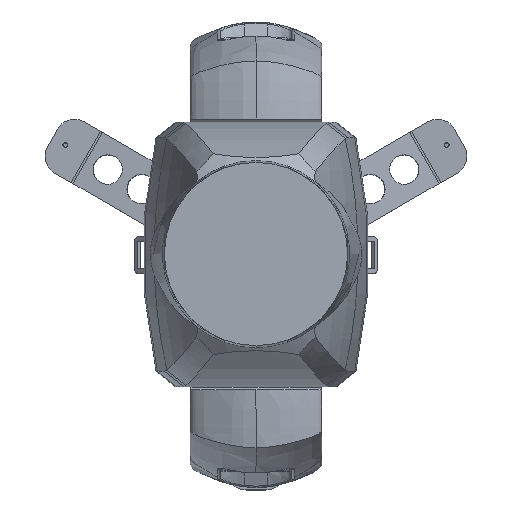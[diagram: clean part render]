
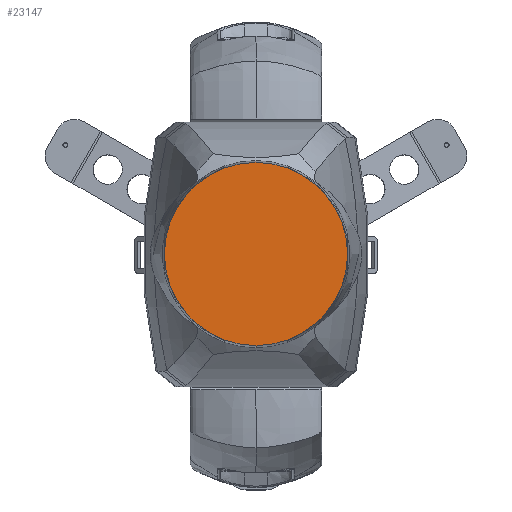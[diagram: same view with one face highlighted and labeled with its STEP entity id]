
A CAD part, top view. The second image highlights one B-rep face of the part: STEP entity #23147.
In plain terms, the highlighted planar face has unit normal (0, 0, 1) as drawn and (0, 0, -1) by its records, which use the part's own axes.
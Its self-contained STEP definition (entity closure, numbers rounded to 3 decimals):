
#21160=CARTESIAN_POINT('',(0.,0.,-871.984));
#21161=DIRECTION('',(0.,0.,1.));
#21162=DIRECTION('',(0.,-1.,0.));
#21163=AXIS2_PLACEMENT_3D('',#21160,#21161,#21162);
#21907=CARTESIAN_POINT('',(0.,0.,-871.984));
#21908=DIRECTION('',(0.,0.,-1.));
#21909=DIRECTION('',(0.,-1.,0.));
#21910=AXIS2_PLACEMENT_3D('',#21907,#21908,#21909);
#21966=CARTESIAN_POINT('',(0.,-93.037,
-871.984));
#21967=CARTESIAN_POINT('',(0.,93.037,
-871.984));
#21968=VERTEX_POINT('',#21966);
#21969=VERTEX_POINT('',#21967);
#23138=CARTESIAN_POINT('',(0.,-134.4,-871.984));
#23139=DIRECTION('',(0.,0.,-1.));
#23140=DIRECTION('',(0.,-1.,0.));
#23141=AXIS2_PLACEMENT_3D('',#23138,#23139,#23140);
#23142=PLANE('',#23141);
#23143=ORIENTED_EDGE('',*,*,#22292,.T.);
#23144=ORIENTED_EDGE('',*,*,#22314,.F.);
#23145=EDGE_LOOP('',(#23143,#23144));
#23146=FACE_OUTER_BOUND('',#23145,.F.);
#21164=CIRCLE('',#21163,93.037);
#21911=CIRCLE('',#21910,93.037);
#22292=EDGE_CURVE('',#21968,#21969,#21164,.T.);
#22314=EDGE_CURVE('',#21968,#21969,#21911,.T.);
#23147=ADVANCED_FACE('',(#23146),#23142,.T.);
